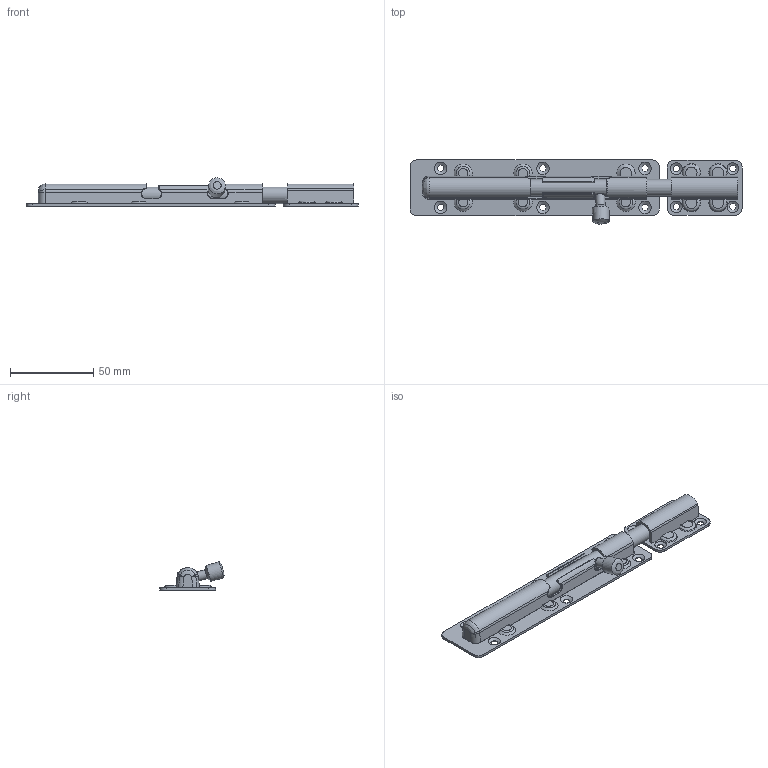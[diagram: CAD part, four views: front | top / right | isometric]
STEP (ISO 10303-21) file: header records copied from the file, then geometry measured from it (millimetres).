
FILE_DESCRIPTION(/* description */ (''),/* implementation_level */ '2;1');
FILE_NAME(/* name */ '\\NAS\db20\ODS1-7S\DR_ODS1-7S.stp',/* time_stamp */ '2017-09-19T15:51:29+09:00',/* author */ ('user'),/* organization */ (''),/* preprocessor_version */ 'ST-DEVELOPER v15.6',/* originating_system */ 'Autodesk Inventor 2015',/* authorisation */ '');
FILE_SCHEMA (('AUTOMOTIVE_DESIGN { 1 0 10303 214 3 1 1 }'));
Length unit declared in the file: millimetre
Products named in the file (4): DR_ODS1-7-BR; DR_ODS1-7-C; DR_ODS1-7-P; DR_ODS1-7S
Bounding box: 199.89 x 38.62 x 17.01 mm (x, y, z)
Volume: 28712.6 mm3; surface area: 29272.9 mm2
Topology: 5 solids, 5 shells, 550 faces, 1378 edges, 828 vertices
Faces by surface type: cylinder 204, plane 153, bspline 79, torus 51, cone 33, sphere 30
Full cylindrical faces by diameter (mm): 4 x10, 5.5 x1, 10 x2
Entity records: 18035 total; most frequent: CARTESIAN_POINT 5087, DIRECTION 2763, ORIENTED_EDGE 2660, EDGE_CURVE 1330, AXIS2_PLACEMENT_3D 1092, VERTEX_POINT 815, EDGE_LOOP 617, LINE 579
